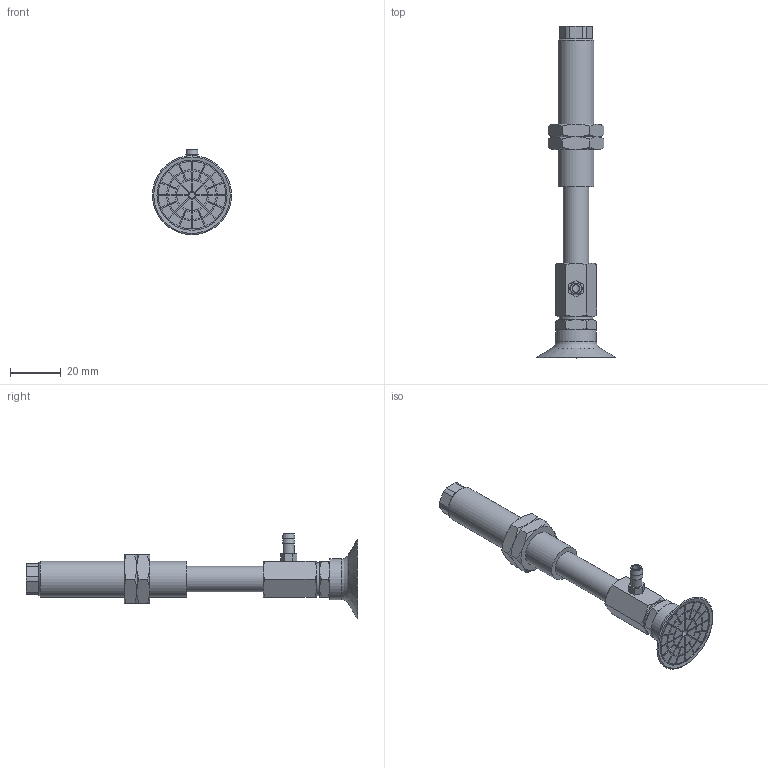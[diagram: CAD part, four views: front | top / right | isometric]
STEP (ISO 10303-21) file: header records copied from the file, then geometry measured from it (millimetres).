
FILE_DESCRIPTION(('STEP AP203'),'1');
FILE_NAME('-T.stp','2025-02-28T07:10:51',(' '),(' '),'Spatial InterOp 3D',' ',' ');
FILE_SCHEMA(('CONFIG_CONTROL_DESIGN'));
Length unit declared in the file: millimetre
Products named in the file (8): BNABPAYS-30B-30-※-T; NAPAYS-30B-30--M; NAPAYS-30B-30--F; Nut-25-S; CONNECTOR-30B-30-PA; TN-PA-30B-M6; T; BPAG-30B-※_3D
Assembly tree (8 placements, depth 2):
  BNABPAYS-30B-30-※-T
    NAPAYS-30B-30--M
    NAPAYS-30B-30--F
    Nut-25-S  x2
    CONNECTOR-30B-30-PA
    TN-PA-30B-M6
    T
    BPAG-30B-※_3D
Bounding box: 31.04 x 130.2 x 33.52 mm (x, y, z)
Volume: 20456.8 mm3; surface area: 15670 mm2
Topology: 8 solids, 8 shells, 382 faces, 878 edges, 561 vertices
Faces by surface type: plane 207, cylinder 101, cone 68, torus 6
Full cylindrical faces by diameter (mm): 2.5 x1, 3 x3, 4.134 x2, 4.3 x1, 4.917 x1, 5 x2, 6 x3, 10 x4, 12.917 x2, 13 x1, 14 x1, 16 x1, 27.5 x1
Entity records: 10604 total; most frequent: CARTESIAN_POINT 2115, DIRECTION 1720, ORIENTED_EDGE 1558, EDGE_CURVE 779, AXIS2_PLACEMENT_3D 648, VERTEX_POINT 527, EDGE_LOOP 466, LINE 424
